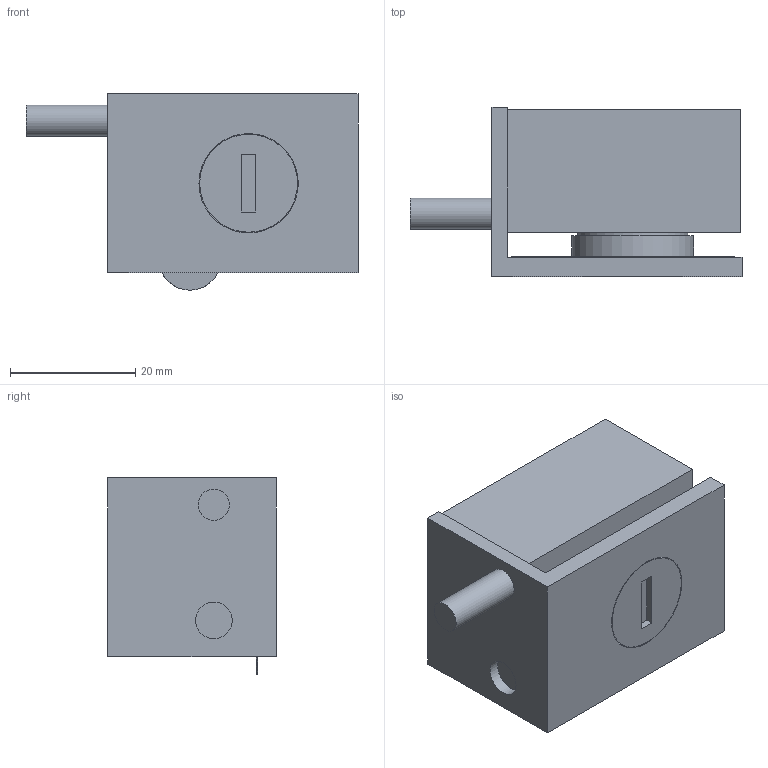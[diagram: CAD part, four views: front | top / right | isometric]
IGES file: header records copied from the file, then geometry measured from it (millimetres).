
Start section: Data from Parasolid IGES Translator 20.0.26, Copyright(c) 2006 Siemens P LM Software. All Rights Reserved.
Global section: file name: 9303932.igs; native system: By Siemens PLM Incorporated; preprocessor: XPlus GENERIC/IGES 20.0.26; author: Noname; organization: Noname; date: 20210927.185633; units: millimetre
Bounding box: 53.12 x 27 x 31.4 mm (x, y, z)
Surface area: 8058.2 mm2 (no closed solid volume)
Topology: 0 solids, 0 shells, 38 faces, 170 edges, 162 vertices
Faces by surface type: extrusion 30, revolution 8
